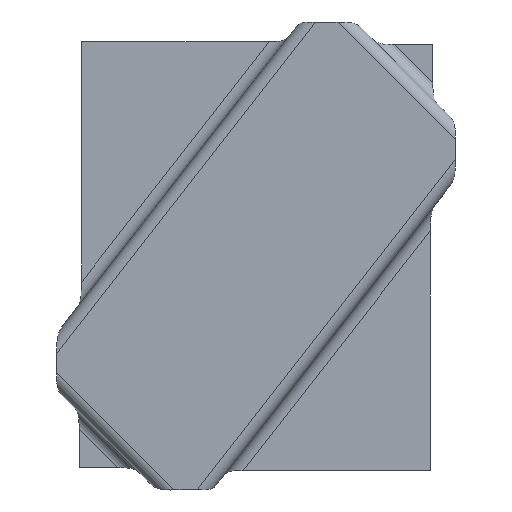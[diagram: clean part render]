
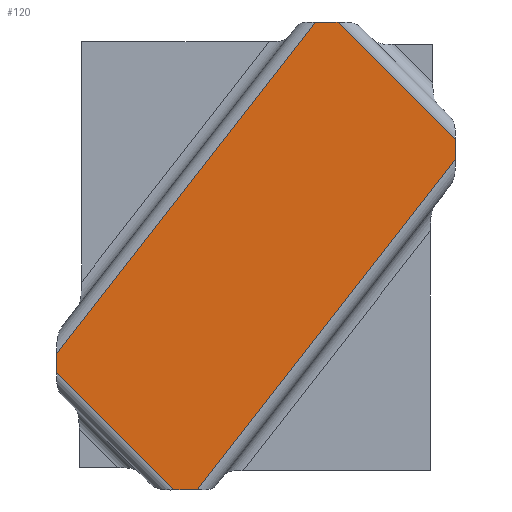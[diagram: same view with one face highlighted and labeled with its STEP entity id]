
A CAD part, top view. The second image highlights one B-rep face of the part: STEP entity #120.
In plain terms, the highlighted planar face has unit normal (0, 0, -1).
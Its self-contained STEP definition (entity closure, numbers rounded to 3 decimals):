
#53=CARTESIAN_POINT('Axis2P3D Location',(-51.087,39.881,65.31)) ;
#59=CARTESIAN_POINT('Control Point',(-51.087,79.31,65.31)) ;
#60=CARTESIAN_POINT('Control Point',(23.519,174.881,65.31)) ;
#61=CARTESIAN_POINT('Vertex',(-51.087,79.31,65.31)) ;
#63=CARTESIAN_POINT('Vertex',(23.519,174.881,65.31)) ;
#66=CARTESIAN_POINT('Line Origine',(6.413,174.881,65.31)) ;
#70=CARTESIAN_POINT('Vertex',(30.087,174.881,65.31)) ;
#74=CARTESIAN_POINT('Control Point',(30.087,174.881,65.31)) ;
#75=CARTESIAN_POINT('Control Point',(63.913,141.055,65.31)) ;
#76=CARTESIAN_POINT('Vertex',(63.913,141.055,65.31)) ;
#79=CARTESIAN_POINT('Line Origine',(63.913,107.381,65.31)) ;
#83=CARTESIAN_POINT('Vertex',(63.913,135.26,65.31)) ;
#87=CARTESIAN_POINT('Control Point',(63.913,135.26,65.31)) ;
#88=CARTESIAN_POINT('Control Point',(-10.544,39.881,65.31)) ;
#89=CARTESIAN_POINT('Vertex',(-10.544,39.881,65.31)) ;
#92=CARTESIAN_POINT('Line Origine',(6.413,39.881,65.31)) ;
#96=CARTESIAN_POINT('Vertex',(-17.261,39.881,65.31)) ;
#100=CARTESIAN_POINT('Control Point',(-51.087,73.707,65.31)) ;
#101=CARTESIAN_POINT('Control Point',(-17.261,39.881,65.31)) ;
#102=CARTESIAN_POINT('Vertex',(-51.087,73.707,65.31)) ;
#105=CARTESIAN_POINT('Line Origine',(-51.087,107.381,65.31)) ;
#54=DIRECTION('Axis2P3D Direction',(0.,0.,1.)) ;
#55=DIRECTION('Axis2P3D XDirection',(1.,0.,0.)) ;
#67=DIRECTION('Vector Direction',(1.,0.,0.)) ;
#80=DIRECTION('Vector Direction',(0.,1.,0.)) ;
#93=DIRECTION('Vector Direction',(1.,0.,0.)) ;
#106=DIRECTION('Vector Direction',(0.,1.,0.)) ;
#56=AXIS2_PLACEMENT_3D('Plane Axis2P3D',#53,#54,#55) ;
#111=ORIENTED_EDGE('',*,*,#65,.T.) ;
#112=ORIENTED_EDGE('',*,*,#72,.T.) ;
#113=ORIENTED_EDGE('',*,*,#78,.T.) ;
#114=ORIENTED_EDGE('',*,*,#85,.T.) ;
#115=ORIENTED_EDGE('',*,*,#91,.T.) ;
#116=ORIENTED_EDGE('',*,*,#98,.T.) ;
#117=ORIENTED_EDGE('',*,*,#104,.F.) ;
#118=ORIENTED_EDGE('',*,*,#109,.T.) ;
#68=VECTOR('Line Direction',#67,1.) ;
#81=VECTOR('Line Direction',#80,1.) ;
#94=VECTOR('Line Direction',#93,1.) ;
#107=VECTOR('Line Direction',#106,1.) ;
#120=ADVANCED_FACE('Offset.1',(#119),#57,.F.) ;
#58=B_SPLINE_CURVE_WITH_KNOTS('',1,(#59,#60),.UNSPECIFIED.,.F.,.U.,(2,2),(-60.621,60.621),.UNSPECIFIED.) ;
#73=B_SPLINE_CURVE_WITH_KNOTS('',1,(#74,#75),.UNSPECIFIED.,.F.,.U.,(2,2),(-23.919,23.919),.UNSPECIFIED.) ;
#86=B_SPLINE_CURVE_WITH_KNOTS('',1,(#87,#88),.UNSPECIFIED.,.F.,.U.,(2,2),(-60.5,60.5),.UNSPECIFIED.) ;
#99=B_SPLINE_CURVE_WITH_KNOTS('',1,(#100,#101),.UNSPECIFIED.,.F.,.U.,(2,2),(-23.919,23.919),.UNSPECIFIED.) ;
#65=EDGE_CURVE('',#62,#64,#58,.T.) ;
#72=EDGE_CURVE('',#64,#71,#69,.T.) ;
#78=EDGE_CURVE('',#71,#77,#73,.T.) ;
#85=EDGE_CURVE('',#77,#84,#82,.F.) ;
#91=EDGE_CURVE('',#84,#90,#86,.T.) ;
#98=EDGE_CURVE('',#90,#97,#95,.F.) ;
#104=EDGE_CURVE('',#103,#97,#99,.T.) ;
#109=EDGE_CURVE('',#103,#62,#108,.T.) ;
#110=EDGE_LOOP('',(#111,#112,#113,#114,#115,#116,#117,#118)) ;
#119=FACE_OUTER_BOUND('',#110,.T.) ;
#69=LINE('Line',#66,#68) ;
#82=LINE('Line',#79,#81) ;
#95=LINE('Line',#92,#94) ;
#108=LINE('Line',#105,#107) ;
#57=PLANE('',#56) ;
#62=VERTEX_POINT('',#61) ;
#64=VERTEX_POINT('',#63) ;
#71=VERTEX_POINT('',#70) ;
#77=VERTEX_POINT('',#76) ;
#84=VERTEX_POINT('',#83) ;
#90=VERTEX_POINT('',#89) ;
#97=VERTEX_POINT('',#96) ;
#103=VERTEX_POINT('',#102) ;
